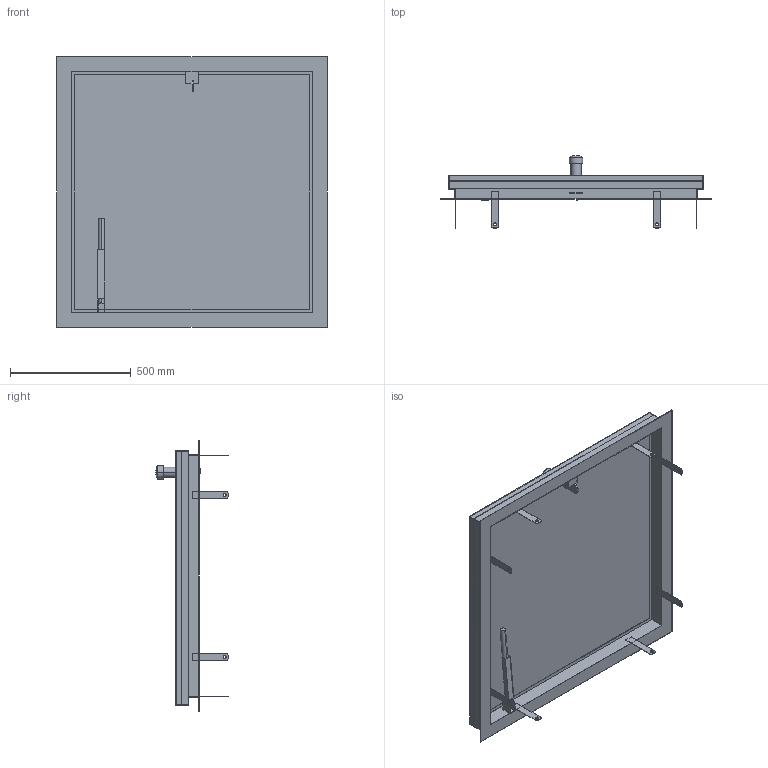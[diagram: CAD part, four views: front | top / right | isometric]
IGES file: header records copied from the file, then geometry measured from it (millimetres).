
Start section:  PTC IGES file: 52335842.igs
Global section: file name: 52335842.igs; native system: Creo Parametric by PTC Inc.; preprocessor: 2022162; author: wep; organization: Unknown; date: 20241219.074725; units: millimetre
Bounding box: 1120 x 300 x 1120 mm (x, y, z)
Surface area: 6114448.5 mm2 (no closed solid volume)
Topology: 0 solids, 0 shells, 734 faces, 3990 edges, 3988 vertices
Faces by surface type: bspline 422, extrusion 275, revolution 37
